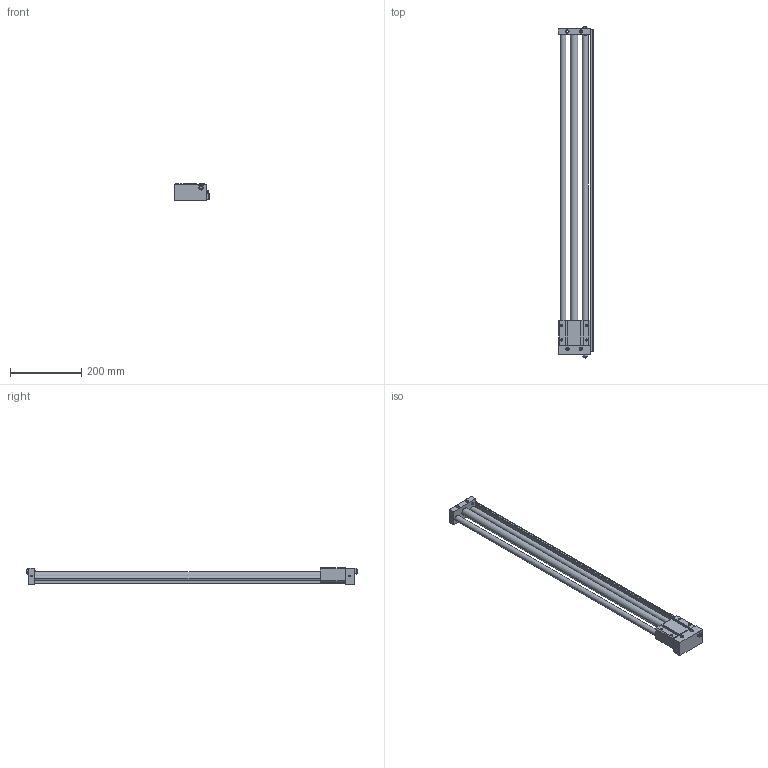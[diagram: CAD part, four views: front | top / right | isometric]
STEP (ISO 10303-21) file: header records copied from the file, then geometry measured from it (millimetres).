
FILE_DESCRIPTION((''),'2;1');
FILE_NAME('C:\Documents and Settings\Administrator\桌面\GYS\GYS20\GYSR20X800.stp','2012-03-06T20:20:23',('Administrator'),(''),'Autodesk Inventor 8','Autodesk Inventor 8','');
FILE_SCHEMA(('AUTOMOTIVE_DESIGN { 1 0 10303 214 1 1 1 1 }'));
Length unit declared in the file: millimetre
Products named in the file (3): GYSR20X800; GYS20X800; GYS20160X800
Assembly tree (2 placements, depth 2):
  GYSR20X800
    GYS20X800
    GYS20160X800
Bounding box: 100.5 x 931 x 46 mm (x, y, z)
Volume: 1174383.2 mm3; surface area: 295687.9 mm2
Topology: 2 solids, 2 shells, 243 faces, 626 edges, 408 vertices
Faces by surface type: plane 133, cylinder 76, cone 28, bspline 6
Entity records: 7564 total; most frequent: CARTESIAN_POINT 1356, DIRECTION 1306, ORIENTED_EDGE 1252, EDGE_CURVE 626, AXIS2_PLACEMENT_3D 438, VECTOR 430, LINE 430, VERTEX_POINT 408
